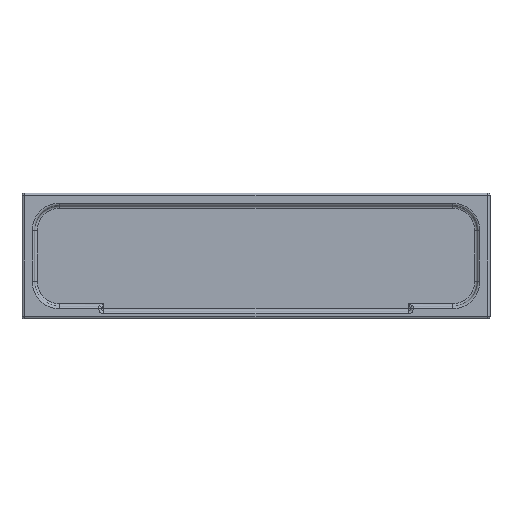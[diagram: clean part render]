
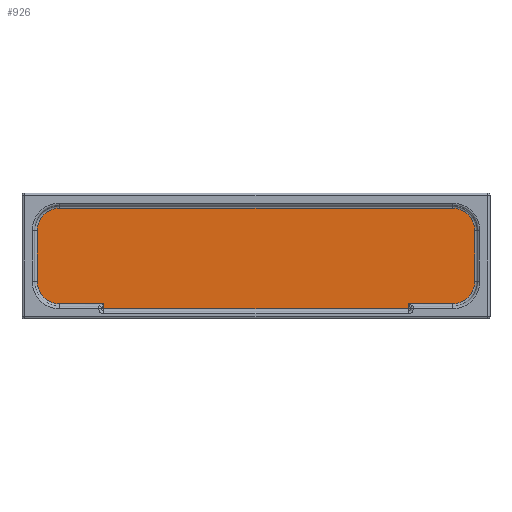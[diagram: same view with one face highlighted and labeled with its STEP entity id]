
A CAD part, top view. The second image highlights one B-rep face of the part: STEP entity #926.
In plain terms, the highlighted planar face has unit normal (0, 0, 1).
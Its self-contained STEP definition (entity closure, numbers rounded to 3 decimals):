
#43=PLANE('',#1073);
#113=FACE_OUTER_BOUND('',#177,.T.);
#177=EDGE_LOOP('',(#816,#817,#818,#819,#820,#821,#822,#823,#824,#825,#826,
#827));
#223=LINE('',#1624,#283);
#224=LINE('',#1629,#284);
#225=LINE('',#1634,#285);
#226=LINE('',#1671,#286);
#227=LINE('',#1675,#287);
#228=LINE('',#1687,#288);
#230=LINE('',#1699,#290);
#232=LINE('',#1711,#292);
#283=VECTOR('',#1301,10.);
#284=VECTOR('',#1308,10.);
#285=VECTOR('',#1315,10.);
#286=VECTOR('',#1324,10.);
#287=VECTOR('',#1331,10.);
#288=VECTOR('',#1346,10.);
#290=VECTOR('',#1360,10.);
#292=VECTOR('',#1374,10.);
#355=CIRCLE('',#1049,9.);
#359=CIRCLE('',#1055,9.);
#363=CIRCLE('',#1061,9.);
#366=CIRCLE('',#1066,9.);
#422=VERTEX_POINT('',#1619);
#423=VERTEX_POINT('',#1623);
#424=VERTEX_POINT('',#1627);
#425=VERTEX_POINT('',#1633);
#426=VERTEX_POINT('',#1666);
#427=VERTEX_POINT('',#1670);
#429=VERTEX_POINT('',#1679);
#431=VERTEX_POINT('',#1685);
#433=VERTEX_POINT('',#1691);
#435=VERTEX_POINT('',#1697);
#437=VERTEX_POINT('',#1703);
#439=VERTEX_POINT('',#1709);
#533=EDGE_CURVE('',#422,#423,#223,.T.);
#536=EDGE_CURVE('',#424,#422,#224,.T.);
#538=EDGE_CURVE('',#423,#425,#225,.T.);
#542=EDGE_CURVE('',#426,#427,#226,.T.);
#545=EDGE_CURVE('',#425,#426,#227,.T.);
#547=EDGE_CURVE('',#429,#424,#355,.T.);
#550=EDGE_CURVE('',#431,#429,#228,.T.);
#553=EDGE_CURVE('',#433,#431,#359,.T.);
#556=EDGE_CURVE('',#435,#433,#230,.T.);
#559=EDGE_CURVE('',#437,#435,#363,.T.);
#562=EDGE_CURVE('',#439,#437,#232,.T.);
#564=EDGE_CURVE('',#427,#439,#366,.T.);
#816=ORIENTED_EDGE('',*,*,#536,.F.);
#817=ORIENTED_EDGE('',*,*,#547,.F.);
#818=ORIENTED_EDGE('',*,*,#550,.F.);
#819=ORIENTED_EDGE('',*,*,#553,.F.);
#820=ORIENTED_EDGE('',*,*,#556,.F.);
#821=ORIENTED_EDGE('',*,*,#559,.F.);
#822=ORIENTED_EDGE('',*,*,#562,.F.);
#823=ORIENTED_EDGE('',*,*,#564,.F.);
#824=ORIENTED_EDGE('',*,*,#542,.F.);
#825=ORIENTED_EDGE('',*,*,#545,.F.);
#826=ORIENTED_EDGE('',*,*,#538,.F.);
#827=ORIENTED_EDGE('',*,*,#533,.F.);
#926=ADVANCED_FACE('',(#113),#43,.T.);
#1049=AXIS2_PLACEMENT_3D('',#1681,#1338,#1339);
#1055=AXIS2_PLACEMENT_3D('',#1693,#1352,#1353);
#1061=AXIS2_PLACEMENT_3D('',#1705,#1366,#1367);
#1066=AXIS2_PLACEMENT_3D('',#1714,#1378,#1379);
#1073=AXIS2_PLACEMENT_3D('',#1726,#1397,#1398);
#1301=DIRECTION('',(0.,-1.,0.));
#1308=DIRECTION('',(-1.,0.,0.));
#1315=DIRECTION('',(-1.,0.,0.));
#1324=DIRECTION('',(-1.,0.,0.));
#1331=DIRECTION('',(0.,1.,0.));
#1338=DIRECTION('center_axis',(0.,0.,-1.));
#1339=DIRECTION('ref_axis',(0.707,-0.707,0.));
#1346=DIRECTION('',(0.,-1.,0.));
#1352=DIRECTION('center_axis',(0.,0.,-1.));
#1353=DIRECTION('ref_axis',(0.707,0.707,0.));
#1360=DIRECTION('',(1.,0.,0.));
#1366=DIRECTION('center_axis',(0.,0.,-1.));
#1367=DIRECTION('ref_axis',(-0.707,0.707,0.));
#1374=DIRECTION('',(0.,1.,0.));
#1378=DIRECTION('center_axis',(0.,0.,-1.));
#1379=DIRECTION('ref_axis',(-0.707,-0.707,0.));
#1397=DIRECTION('center_axis',(0.,0.,1.));
#1398=DIRECTION('ref_axis',(1.,0.,0.));
#1619=CARTESIAN_POINT('',(60.5,-19.,2.));
#1623=CARTESIAN_POINT('',(60.5,-21.,2.));
#1624=CARTESIAN_POINT('',(60.5,-10.,2.));
#1627=CARTESIAN_POINT('',(78.,-19.,2.));
#1629=CARTESIAN_POINT('',(39.,-19.,2.));
#1633=CARTESIAN_POINT('',(-60.5,-21.,2.));
#1634=CARTESIAN_POINT('',(30.75,-21.,2.));
#1666=CARTESIAN_POINT('',(-60.5,-19.,2.));
#1670=CARTESIAN_POINT('',(-78.,-19.,2.));
#1671=CARTESIAN_POINT('',(-30.75,-19.,2.));
#1675=CARTESIAN_POINT('',(-60.5,-11.,2.));
#1679=CARTESIAN_POINT('',(87.,-10.,2.));
#1681=CARTESIAN_POINT('Origin',(78.,-10.,2.));
#1685=CARTESIAN_POINT('',(87.,10.,2.));
#1687=CARTESIAN_POINT('',(87.,5.,2.));
#1691=CARTESIAN_POINT('',(78.,19.,2.));
#1693=CARTESIAN_POINT('Origin',(78.,10.,2.));
#1697=CARTESIAN_POINT('',(-78.,19.,2.));
#1699=CARTESIAN_POINT('',(-39.,19.,2.));
#1703=CARTESIAN_POINT('',(-87.,10.,2.));
#1705=CARTESIAN_POINT('Origin',(-78.,10.,2.));
#1709=CARTESIAN_POINT('',(-87.,-10.,2.));
#1711=CARTESIAN_POINT('',(-87.,-5.,2.));
#1714=CARTESIAN_POINT('Origin',(-78.,-10.,2.));
#1726=CARTESIAN_POINT('Origin',(0.,0.,2.));
